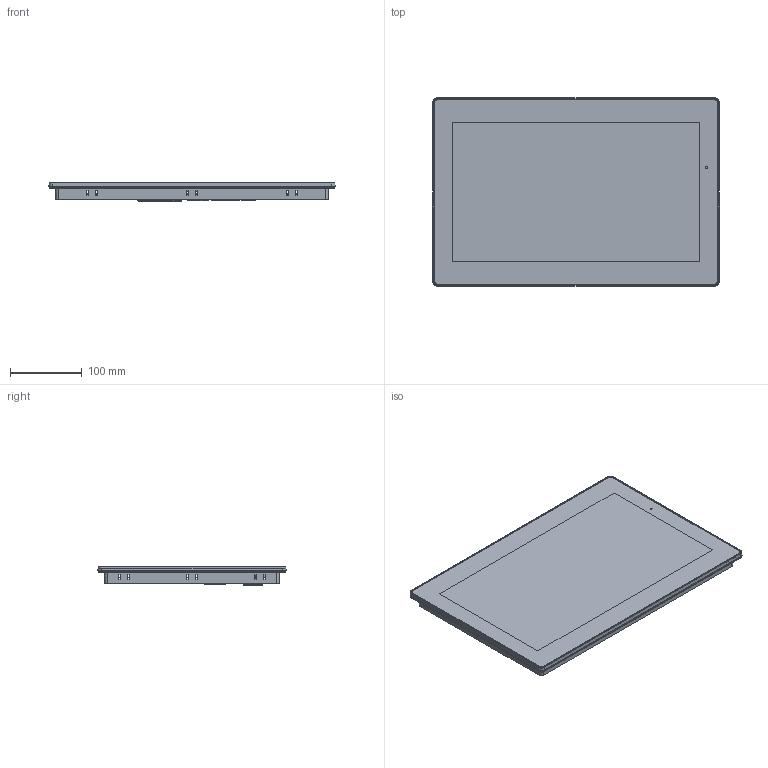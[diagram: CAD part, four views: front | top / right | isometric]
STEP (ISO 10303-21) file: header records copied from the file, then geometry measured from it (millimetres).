
FILE_DESCRIPTION (( 'STEP AP214' ), '1' );
FILE_NAME ('cMT3162X.STEP', '2020-07-17T00:10:04', ( '' ), ( '' ), 'SwSTEP 2.0', 'SolidWorks 2019', '' );
FILE_SCHEMA (( 'AUTOMOTIVE_DESIGN' ));
Length unit declared in the file: millimetre
Products named in the file (1): cMT3162X
Bounding box: 400 x 263 x 26.1 mm (x, y, z)
Surface area: 290441.2 mm2 (no closed solid volume)
Topology: 0 solids, 96 shells, 1142 faces, 5187 edges, 4151 vertices
Faces by surface type: plane 567, cylinder 370, cone 98, bspline 57, torus 40, sphere 10
Entity records: 74190 total; most frequent: CARTESIAN_POINT 21534, DIRECTION 7557, ORIENTED_EDGE 7551, EDGE_CURVE 5171, VERTEX_POINT 4151, VECTOR 3141, LINE 3141, AXIS2_PLACEMENT_3D 2208
